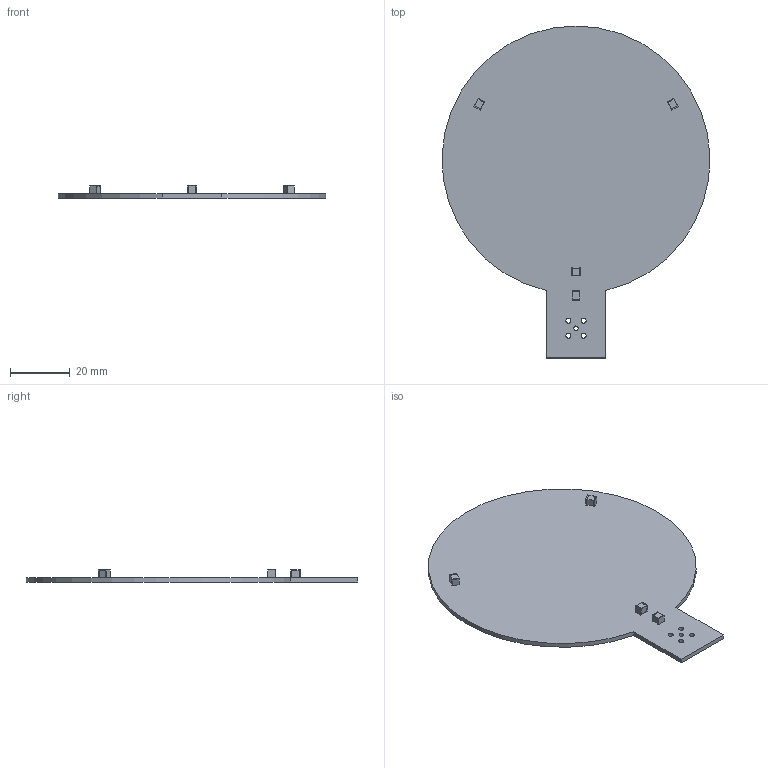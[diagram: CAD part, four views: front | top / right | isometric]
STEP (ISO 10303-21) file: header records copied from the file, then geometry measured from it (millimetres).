
FILE_DESCRIPTION(('KiCad electronic assembly'),'2;1');
FILE_NAME('pcb_and_capacitors_review.step','2026-11-18T10:23:35',( 'Pcbnew'),('Kicad'),'Open CASCADE STEP processor 7.6', 'KiCad to STEP converter','Unknown');
FILE_SCHEMA(('AUTOMOTIVE_DESIGN { 1 0 10303 214 1 1 1 1 }'));
Length unit declared in the file: millimetre
Products named in the file (3): pcb_and_capacitors_review 1; C_1210_3225Metric; rx_coil_3t_PCB
Assembly tree (5 placements, depth 2):
  pcb_and_capacitors_review 1
    C_1210_3225Metric  x4
    rx_coil_3t_PCB
Bounding box: 89.97 x 111.5 x 4.12 mm (x, y, z)
Volume: 10462.4 mm3; surface area: 14295.3 mm2
Topology: 5 solids, 5 shells, 123 faces, 315 edges, 210 vertices
Faces by surface type: plane 69, cylinder 54
Full cylindrical faces by diameter (mm): 1.5 x1, 1.7 x4
Entity records: 1286 total; most frequent: DIRECTION 225, CARTESIAN_POINT 210, ORIENTED_EDGE 198, EDGE_CURVE 99, AXIS2_PLACEMENT_3D 81, VERTEX_POINT 66, LINE 63, VECTOR 63
